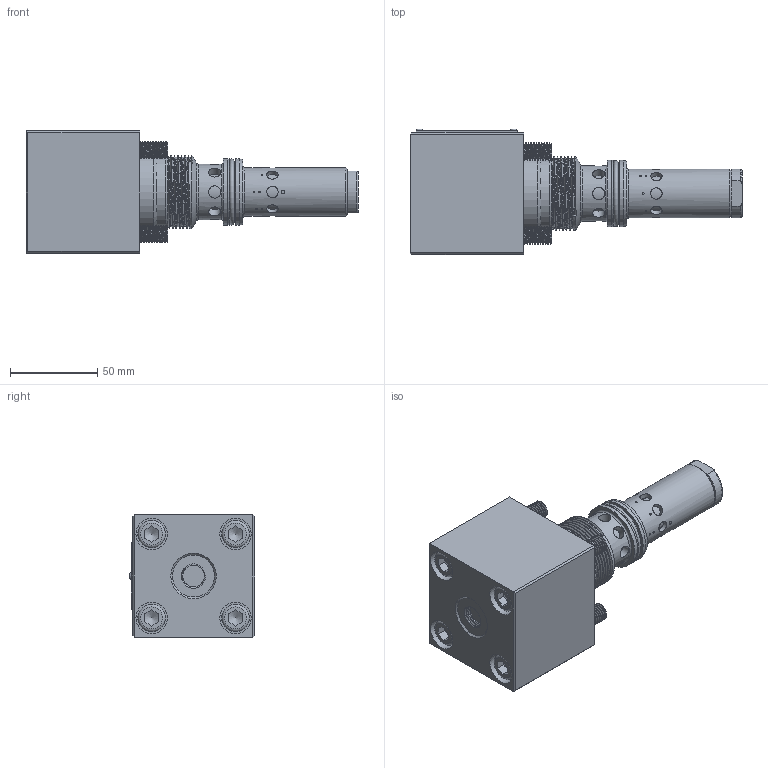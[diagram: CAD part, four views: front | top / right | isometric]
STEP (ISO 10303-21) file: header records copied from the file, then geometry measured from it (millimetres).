
FILE_DESCRIPTION(/* description */ (''),/* implementation_level */ '2;1');
FILE_NAME(/* name */ 'FD12(16)KA平衡阀（插件）.prt.stp',/* time_stamp */ '2022-03-30T20:01:54+08:00',/* author */ (''),/* organization */ (''),/* preprocessor_version */ 'ST-DEVELOPER v16.7',/* originating_system */ 'SIEMENS PLM Software NX 12.0',/* authorisation */ '');
FILE_SCHEMA (('AUTOMOTIVE_DESIGN { 1 0 10303 214 3 1 1 1 }'));
Products named in the file (1): FD12(16)KA平衡阀（插件）
Bounding box: 190 x 71.8 x 70 mm (x, y, z)
Volume: 435956.3 mm3; surface area: 90700.2 mm2
Topology: 13 solids, 13 shells, 429 faces, 999 edges, 638 vertices
Faces by surface type: cylinder 237, plane 133, cone 26, bspline 18, torus 15
Full cylindrical faces by diameter (mm): 1 x12, 1.8 x2, 1.9 x2, 2 x4, 6.5 x8, 7 x8, 10 x128, 11 x4, 11.8 x1, 15.73 x4, 16 x1, 18 x4, 19.7 x1, 24 x1, 28 x1, 32 x1, 33.9 x1, 38 x2, 42 x2, 45.9 x1, 46 x1
Entity records: 35712 total; most frequent: CARTESIAN_POINT 29848, DIRECTION 1074, ORIENTED_EDGE 956, EDGE_CURVE 478, EDGE_LOOP 462, AXIS2_PLACEMENT_3D 444, VERTEX_POINT 361, ADVANCED_FACE 301
